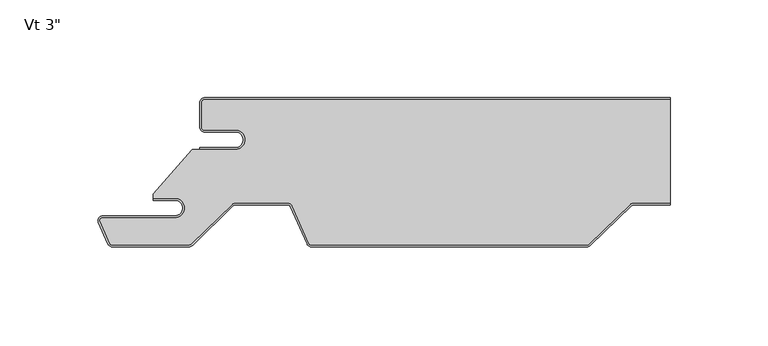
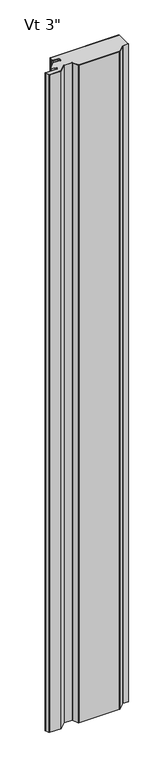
"""IFC4 building model written with IfcOpenShell, lengths in millimetres: plate geometry."""

from ifc_helpers import new_model, si_unit, point, frame_2d, origin, origin_with_axes, place, context, project, spatial, polyline, circle_curve, trimmed, segment, composite_curve, outline, extrude, source, transform, mapped, element, save


def plate_3b90a758(model_context):
    return source(origin(), model_context, "Body", "SweptSolid", [
        extrude(outline(composite_curve([segment(trimmed(circle_curve(frame_2d((-101.3499998, -21.4324412)), 4.96875), [point((-101.3499998, -26.4011912))], [point((-101.3499998, -16.4636912))], True, "CARTESIAN"), True, "CONTINUOUS"), segment(polyline([(-101.3499998, -16.4636912), (-117.2249998, -16.4636912)]), True, "CONTINUOUS"), segment(trimmed(circle_curve(frame_2d((-117.2249998, -15.0824412)), 1.38125), [point((-117.2249998, -16.4636912))], [point((-118.6062498, -15.0824412))], False, "CARTESIAN"), True, "CONTINUOUS"), segment(polyline([(-118.6062498, -15.0824412), (-118.6062498, -2.3824412)]), True, "CONTINUOUS"), segment(trimmed(circle_curve(frame_2d((-117.2249998, -2.3824412)), 1.38125), [point((-118.6062498, -2.3824412))], [point((-117.2249998, -1.0011912))], False, "CARTESIAN"), True, "CONTINUOUS"), segment(polyline([(-117.2249998, -1.0011912), (120.3999998, -1.0011912), (120.3999998, -53.6862), (101.8679504, -53.6862)]), True, "CONTINUOUS"), segment(trimmed(circle_curve(frame_2d((101.8679504, -56.2737)), 2.5875), [point((101.8679504, -53.6862))], [point((100.0682998, -54.4145567))], True, "CARTESIAN"), True, "CONTINUOUS"), segment(polyline([(100.0682998, -54.4145567), (78.9973964, -74.8111912)]), True, "CONTINUOUS"), segment(trimmed(circle_curve(frame_2d((78.0367133, -73.81875)), 1.38125), [point((78.9973964, -74.8111912))], [point((78.0367133, -75.2))], False, "CARTESIAN"), True, "CONTINUOUS"), segment(polyline([(78.0367133, -75.2), (-62.6999941, -75.2)]), True, "CONTINUOUS"), segment(trimmed(circle_curve(frame_2d((-62.6999941, -73.81875)), 1.38125), [point((-62.6999941, -75.2))], [point((-63.9629944, -74.3779296))], False, "CARTESIAN"), True, "CONTINUOUS"), segment(polyline([(-63.9629944, -74.3779296), (-72.4422193, -55.2261871)]), True, "CONTINUOUS"), segment(trimmed(circle_curve(frame_2d((-74.8082017, -56.2737)), 2.5875), [point((-72.4422193, -55.2261871))], [point((-74.8082017, -53.6862))], True, "CARTESIAN"), True, "CONTINUOUS"), segment(polyline([(-74.8082017, -53.6862), (-101.3320496, -53.6862)]), True, "CONTINUOUS"), segment(trimmed(circle_curve(frame_2d((-101.3320496, -56.2737)), 2.5875), [point((-101.3320496, -53.6862))], [point((-103.1317002, -54.4145567))], True, "CARTESIAN"), True, "CONTINUOUS"), segment(polyline([(-103.1317002, -54.4145567), (-123.993943, -74.6092077)]), True, "CONTINUOUS"), segment(trimmed(circle_curve(frame_2d((-125.4536944, -73.1012)), 2.0988), [point((-123.993943, -74.6092077))], [point((-125.4536944, -75.2))], False, "CARTESIAN"), True, "CONTINUOUS"), segment(polyline([(-125.4536944, -75.2), (-164.2999941, -75.2)]), True, "CONTINUOUS"), segment(trimmed(circle_curve(frame_2d((-164.2999941, -73.81875)), 1.38125), [point((-164.2999941, -75.2))], [point((-165.5629944, -74.3779296))], False, "CARTESIAN"), True, "CONTINUOUS"), segment(polyline([(-165.5629944, -74.3779296), (-170.4824051, -63.2666208)]), True, "CONTINUOUS"), segment(trimmed(circle_curve(frame_2d((-169.2194048, -62.7074412)), 1.38125), [point((-170.4824051, -63.2666208))], [point((-169.2194048, -61.3261912))], False, "CARTESIAN"), True, "CONTINUOUS"), segment(polyline([(-169.2194048, -61.3261912), (-132.3062498, -61.3261912)]), True, "CONTINUOUS"), segment(trimmed(circle_curve(frame_2d((-132.3062498, -56.3574412)), 4.96875), [point((-132.3062498, -61.3261912))], [point((-132.3062498, -51.3886912))], True, "CARTESIAN"), True, "CONTINUOUS"), segment(polyline([(-132.3062498, -51.3886912), (-143.4187498, -51.3886912), (-143.4187498, -49.233822), (-123.597661, -26.4011912), (-101.3499998, -26.4011912)]), True, "CONTINUOUS")], self_intersect=False)), origin_with_axes(), (0.0, 0.0, 1.0), 2400.0),
        extrude(outline(composite_curve([segment(polyline([(-119.6062498, -25.4), (-101.3499998, -25.4)]), True, "CONTINUOUS"), segment(trimmed(circle_curve(frame_2d((-101.3499998, -21.43125)), 3.96875), [point((-101.3499998, -25.4))], [point((-101.3499998, -17.4625))], True, "CARTESIAN"), True, "CONTINUOUS"), segment(polyline([(-101.3499998, -17.4625), (-117.2249998, -17.4625)]), True, "CONTINUOUS"), segment(trimmed(circle_curve(frame_2d((-117.2249998, -15.08125)), 2.38125), [point((-117.2249998, -17.4625))], [point((-119.6062498, -15.08125))], False, "CARTESIAN"), True, "CONTINUOUS"), segment(polyline([(-119.6062498, -15.08125), (-119.6062498, -2.38125)]), True, "CONTINUOUS"), segment(trimmed(circle_curve(frame_2d((-117.2249998, -2.38125)), 2.38125), [point((-119.6062498, -2.38125))], [point((-117.2249998, 0.0))], False, "CARTESIAN"), True, "CONTINUOUS"), segment(polyline([(-117.2249998, 0.0), (120.3999998, 0.0), (120.3999998, -1.0), (-117.2249998, -1.0)]), True, "CONTINUOUS"), segment(trimmed(circle_curve(frame_2d((-117.2249998, -2.38125)), 1.38125), [point((-117.2249998, -1.0))], [point((-118.6062498, -2.38125))], True, "CARTESIAN"), True, "CONTINUOUS"), segment(polyline([(-118.6062498, -2.38125), (-118.6062498, -15.08125)]), True, "CONTINUOUS"), segment(trimmed(circle_curve(frame_2d((-117.2249998, -15.08125)), 1.38125), [point((-118.6062498, -15.08125))], [point((-117.2249998, -16.4625))], True, "CARTESIAN"), True, "CONTINUOUS"), segment(polyline([(-117.2249998, -16.4625), (-101.3499998, -16.4625)]), True, "CONTINUOUS"), segment(trimmed(circle_curve(frame_2d((-101.3499998, -21.43125)), 4.96875), [point((-101.3499998, -16.4625))], [point((-101.3499998, -26.4))], False, "CARTESIAN"), True, "CONTINUOUS"), segment(polyline([(-101.3499998, -26.4), (-119.6062498, -26.4), (-119.6062498, -25.4)]), True, "CONTINUOUS")], self_intersect=False)), origin_with_axes(), (0.0, 0.0, 1.0), 2400.0),
        extrude(outline(composite_curve([segment(trimmed(circle_curve(frame_2d((-132.3062498, -56.3574412)), 3.96875), [point((-132.3062498, -60.3261912))], [point((-132.3062498, -52.3886912))], True, "CARTESIAN"), True, "CONTINUOUS"), segment(polyline([(-132.3062498, -52.3886912), (-143.4187498, -52.3886912), (-143.4187498, -51.3886912), (-132.3062498, -51.3886912)]), True, "CONTINUOUS"), segment(trimmed(circle_curve(frame_2d((-132.3062498, -56.3574412)), 4.96875), [point((-132.3062498, -51.3886912))], [point((-132.3062498, -61.3261912))], False, "CARTESIAN"), True, "CONTINUOUS"), segment(polyline([(-132.3062498, -61.3261912), (-169.2194048, -61.3261912)]), True, "CONTINUOUS"), segment(trimmed(circle_curve(frame_2d((-169.2194048, -62.7074412)), 1.38125), [point((-169.2194048, -61.3261912))], [point((-170.4824051, -63.2666208))], True, "CARTESIAN"), True, "CONTINUOUS"), segment(polyline([(-170.4824051, -63.2666208), (-165.5629944, -74.3779296)]), True, "CONTINUOUS"), segment(trimmed(circle_curve(frame_2d((-164.2999941, -73.81875)), 1.38125), [point((-165.5629944, -74.3779296))], [point((-164.2999941, -75.2))], True, "CARTESIAN"), True, "CONTINUOUS"), segment(polyline([(-164.2999941, -75.2), (-125.4536944, -75.2)]), True, "CONTINUOUS"), segment(trimmed(circle_curve(frame_2d((-125.4536944, -73.1012)), 2.0988), [point((-125.4536944, -75.2))], [point((-123.993943, -74.6092077))], True, "CARTESIAN"), True, "CONTINUOUS"), segment(polyline([(-123.993943, -74.6092077), (-103.1317002, -54.4145567)]), True, "CONTINUOUS"), segment(trimmed(circle_curve(frame_2d((-101.3320496, -56.2737)), 2.5875), [point((-103.1317002, -54.4145567))], [point((-101.3320496, -53.6862))], False, "CARTESIAN"), True, "CONTINUOUS"), segment(polyline([(-101.3320496, -53.6862), (-74.8082017, -53.6862)]), True, "CONTINUOUS"), segment(trimmed(circle_curve(frame_2d((-74.8082017, -56.2737)), 2.5875), [point((-74.8082017, -53.6862))], [point((-72.4422193, -55.2261871))], False, "CARTESIAN"), True, "CONTINUOUS"), segment(polyline([(-72.4422193, -55.2261871), (-63.9629944, -74.3779296)]), True, "CONTINUOUS"), segment(trimmed(circle_curve(frame_2d((-62.6999941, -73.81875)), 1.38125), [point((-63.9629944, -74.3779296))], [point((-62.6999941, -75.2))], True, "CARTESIAN"), True, "CONTINUOUS"), segment(polyline([(-62.6999941, -75.2), (78.0367133, -75.2)]), True, "CONTINUOUS"), segment(trimmed(circle_curve(frame_2d((78.0367133, -73.81875)), 1.38125), [point((78.0367133, -75.2))], [point((78.9973964, -74.8111912))], True, "CARTESIAN"), True, "CONTINUOUS"), segment(polyline([(78.9973964, -74.8111912), (100.0682998, -54.4145567)]), True, "CONTINUOUS"), segment(trimmed(circle_curve(frame_2d((101.8679504, -56.2737)), 2.5875), [point((100.0682998, -54.4145567))], [point((101.8679504, -53.6862))], False, "CARTESIAN"), True, "CONTINUOUS"), segment(polyline([(101.8679504, -53.6862), (120.3999998, -53.6862), (120.3999998, -54.6862), (101.8679504, -54.6862)]), True, "CONTINUOUS"), segment(trimmed(circle_curve(frame_2d((101.8679504, -56.2737)), 1.5875), [point((101.8679504, -54.6862))], [point((100.7638169, -55.1330662))], True, "CARTESIAN"), True, "CONTINUOUS"), segment(polyline([(100.7638169, -55.1330662), (79.6929135, -75.5297007)]), True, "CONTINUOUS"), segment(trimmed(circle_curve(frame_2d((78.0367133, -73.81875)), 2.38125), [point((79.6929135, -75.5297007))], [point((78.0367133, -76.2))], False, "CARTESIAN"), True, "CONTINUOUS"), segment(polyline([(78.0367133, -76.2), (-62.6999941, -76.2)]), True, "CONTINUOUS"), segment(trimmed(circle_curve(frame_2d((-62.6999941, -73.81875)), 2.38125), [point((-62.6999941, -76.2))], [point((-64.8773838, -74.7827655))], False, "CARTESIAN"), True, "CONTINUOUS"), segment(polyline([(-64.8773838, -74.7827655), (-73.3566086, -55.631023)]), True, "CONTINUOUS"), segment(trimmed(circle_curve(frame_2d((-74.8082017, -56.2737)), 1.5875), [point((-73.3566086, -55.631023))], [point((-74.8082017, -54.6862))], True, "CARTESIAN"), True, "CONTINUOUS"), segment(polyline([(-74.8082017, -54.6862), (-101.3320496, -54.6862)]), True, "CONTINUOUS"), segment(trimmed(circle_curve(frame_2d((-101.3320496, -56.2737)), 1.5875), [point((-101.3320496, -54.6862))], [point((-102.4361831, -55.1330662))], True, "CARTESIAN"), True, "CONTINUOUS"), segment(polyline([(-102.4361831, -55.1330662), (-123.2984258, -75.3277172)]), True, "CONTINUOUS"), segment(trimmed(circle_curve(frame_2d((-125.4536944, -73.1012)), 3.0988), [point((-123.2984258, -75.3277172))], [point((-125.4536944, -76.2))], False, "CARTESIAN"), True, "CONTINUOUS"), segment(polyline([(-125.4536944, -76.2), (-164.2999941, -76.2)]), True, "CONTINUOUS"), segment(trimmed(circle_curve(frame_2d((-164.2999941, -73.81875)), 2.38125), [point((-164.2999941, -76.2))], [point((-166.4773838, -74.7827655))], False, "CARTESIAN"), True, "CONTINUOUS"), segment(polyline([(-166.4773838, -74.7827655), (-171.3967944, -63.6714567)]), True, "CONTINUOUS"), segment(trimmed(circle_curve(frame_2d((-169.2194048, -62.7074412)), 2.38125), [point((-171.3967944, -63.6714567))], [point((-169.2194048, -60.3261912))], False, "CARTESIAN"), True, "CONTINUOUS"), segment(polyline([(-169.2194048, -60.3261912), (-132.3062498, -60.3261912)]), True, "CONTINUOUS")], self_intersect=False)), origin_with_axes(), (0.0, 0.0, 1.0), 2400.0),
    ])


if __name__ == "__main__":
    model = new_model("IFC4")
    model_context = context("Model", 3, world=origin())
    ifc_project = project(units=[si_unit("LENGTHUNIT", "METRE", prefix="MILLI")], contexts=[model_context])
    site = spatial("IfcSite", under=ifc_project)
    building = spatial("IfcBuilding", under=site)
    placement = place(None, origin())
    plate_shape = plate_3b90a758(model_context)
    element("IfcPlate", 1, ObjectType="KIP-12-DWR-R19-CP-Vt-A : Vt 3\"", at=placement, inside=building, context=model_context, shape_type="MappedRepresentation", body=[
        mapped(plate_shape, transform((0.0, 0.0, 0.0), x_axis=(1.0, 0.0, 0.0), y_axis=(0.0, 1.0, 0.0), z_axis=(0.0, 0.0, 1.0))),
    ])
    save(model, "model.ifc")
